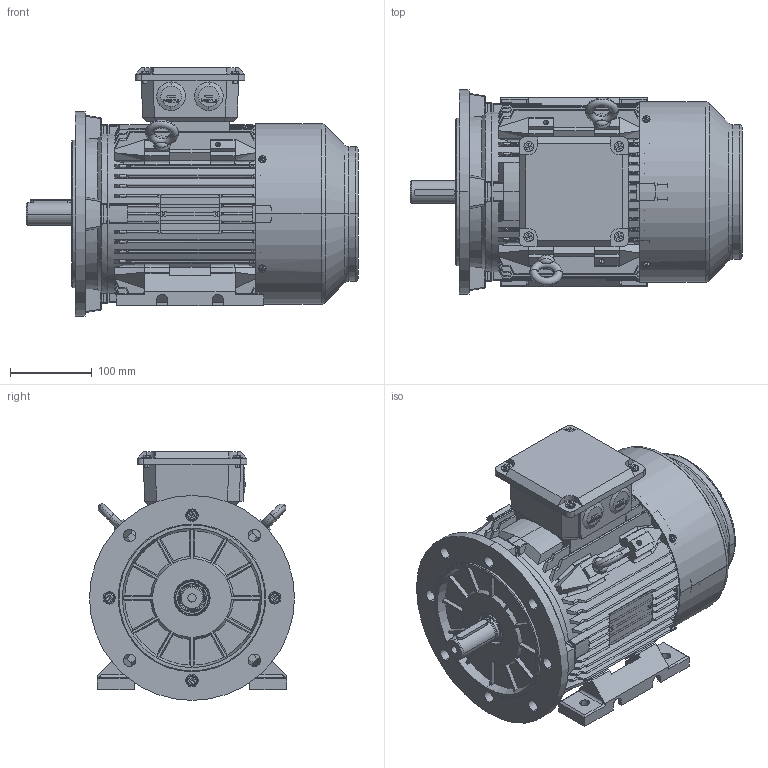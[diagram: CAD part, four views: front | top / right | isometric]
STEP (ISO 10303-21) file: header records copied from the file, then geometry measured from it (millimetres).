
FILE_DESCRIPTION (( 'STEP AP214' ), '1' );
FILE_NAME ('BCT3400.11D235.11.STEP', '2020-04-22T16:46:26', ( '' ), ( '' ), 'SwSTEP 2.0', 'SolidWorks 2019', '' );
FILE_SCHEMA (( 'AUTOMOTIVE_DESIGN' ));
Length unit declared in the file: millimetre
Products named in the file (1): BCT3400.11D235.11
Bounding box: 405 x 250 x 303.5 mm (x, y, z)
Volume: 3462185.5 mm3; surface area: 1278346.2 mm2
Topology: 34 solids, 34 shells, 3708 faces, 10225 edges, 6685 vertices
Faces by surface type: plane 1846, cylinder 1284, cone 310, bspline 148, torus 120
Entity records: 142636 total; most frequent: CARTESIAN_POINT 47787, ORIENTED_EDGE 20402, DIRECTION 18821, EDGE_CURVE 10201, VERTEX_POINT 6685, AXIS2_PLACEMENT_3D 6444, LINE 5933, VECTOR 5933
